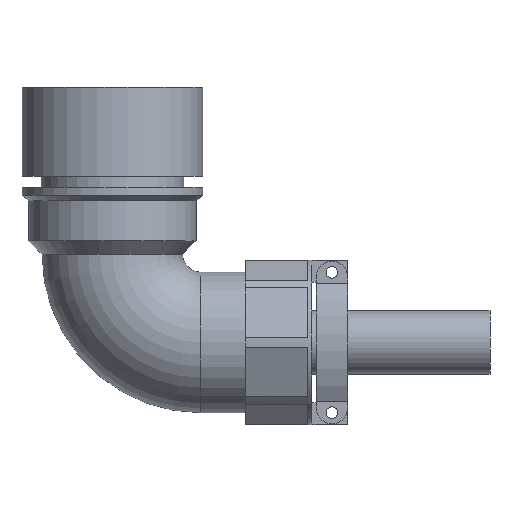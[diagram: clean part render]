
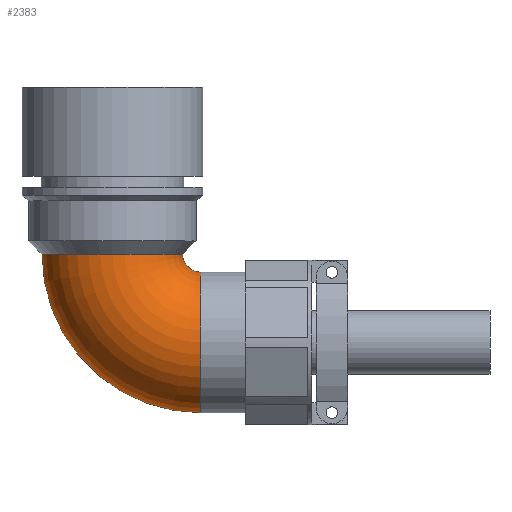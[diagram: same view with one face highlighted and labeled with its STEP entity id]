
A CAD part, front view. The second image highlights one B-rep face of the part: STEP entity #2383.
In plain terms, the highlighted toroidal (fillet/blend) face has major radius 19.844 mm and minor radius 15.8 mm.
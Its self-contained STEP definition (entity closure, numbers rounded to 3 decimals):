
#14 = CARTESIAN_POINT ( 'NONE',  ( 0., 0., -17.5 ) ) ;
#132 = VERTEX_POINT ( 'NONE', #3059 ) ;
#163 = DIRECTION ( 'NONE',  ( 0., 0., -1. ) ) ;
#168 = VERTEX_POINT ( 'NONE', #1171 ) ;
#489 = EDGE_CURVE ( 'NONE', #132, #168, #3312, .T. ) ;
#536 = ORIENTED_EDGE ( 'NONE', *, *, #3444, .F. ) ;
#574 = AXIS2_PLACEMENT_3D ( 'NONE', #1621, #1965, #1948 ) ;
#816 = ORIENTED_EDGE ( 'NONE', *, *, #3275, .T. ) ;
#818 = DIRECTION ( 'NONE',  ( 0., -1., 0. ) ) ;
#852 = ORIENTED_EDGE ( 'NONE', *, *, #489, .F. ) ;
#1041 = DIRECTION ( 'NONE',  ( -1., 0., 0. ) ) ;
#1171 = CARTESIAN_POINT ( 'NONE',  ( 19.844, 0., -53.144 ) ) ;
#1264 = EDGE_CURVE ( 'NONE', #3101, #168, #3177, .T. ) ;
#1332 = CIRCLE ( 'NONE', #2070, 15.8 ) ;
#1408 = CARTESIAN_POINT ( 'NONE',  ( 19.844, 0., -17.5 ) ) ;
#1500 = FACE_OUTER_BOUND ( 'NONE', #3315, .T. ) ;
#1621 = CARTESIAN_POINT ( 'NONE',  ( 19.844, 0., -37.344 ) ) ;
#1724 = DIRECTION ( 'NONE',  ( 0., 0., -1. ) ) ;
#1948 = DIRECTION ( 'NONE',  ( 0., 0., -1. ) ) ;
#1965 = DIRECTION ( 'NONE',  ( 1., 0., 0. ) ) ;
#1992 = CARTESIAN_POINT ( 'NONE',  ( 19.844, 0., -17.5 ) ) ;
#2070 = AXIS2_PLACEMENT_3D ( 'NONE', #14, #2943, #1041 ) ;
#2132 = VERTEX_POINT ( 'NONE', #2178 ) ;
#2178 = CARTESIAN_POINT ( 'NONE',  ( 15.8, 0., -17.5 ) ) ;
#2383 = ADVANCED_FACE ( 'NONE', ( #1500 ), #3063, .T. ) ;
#2472 = DIRECTION ( 'NONE',  ( 0., 0., -1. ) ) ;
#2548 = CARTESIAN_POINT ( 'NONE',  ( -15.8, 0., -17.5 ) ) ;
#2577 = AXIS2_PLACEMENT_3D ( 'NONE', #1992, #3089, #1724 ) ;
#2584 = DIRECTION ( 'NONE',  ( 0., -1., 0. ) ) ;
#2629 = CIRCLE ( 'NONE', #2577, 4.044 ) ;
#2643 = AXIS2_PLACEMENT_3D ( 'NONE', #3391, #2584, #163 ) ;
#2943 = DIRECTION ( 'NONE',  ( 0., 0., -1. ) ) ;
#3059 = CARTESIAN_POINT ( 'NONE',  ( 19.844, 0., -21.544 ) ) ;
#3063 = TOROIDAL_SURFACE ( 'NONE', #2643, 19.844, 15.8 ) ;
#3069 = AXIS2_PLACEMENT_3D ( 'NONE', #1408, #818, #2472 ) ;
#3089 = DIRECTION ( 'NONE',  ( 0., -1., 0. ) ) ;
#3101 = VERTEX_POINT ( 'NONE', #2548 ) ;
#3177 = CIRCLE ( 'NONE', #3069, 35.644 ) ;
#3275 = EDGE_CURVE ( 'NONE', #2132, #3101, #1332, .T. ) ;
#3277 = ORIENTED_EDGE ( 'NONE', *, *, #1264, .T. ) ;
#3312 = CIRCLE ( 'NONE', #574, 15.8 ) ;
#3315 = EDGE_LOOP ( 'NONE', ( #816, #3277, #852, #536 ) ) ;
#3391 = CARTESIAN_POINT ( 'NONE',  ( 19.844, 0., -17.5 ) ) ;
#3444 = EDGE_CURVE ( 'NONE', #2132, #132, #2629, .T. ) ;
